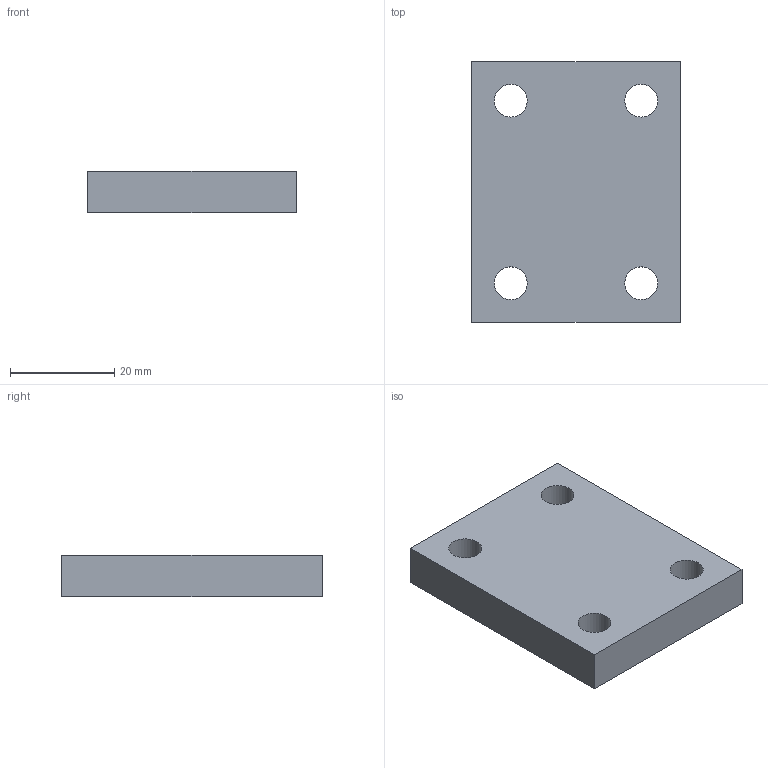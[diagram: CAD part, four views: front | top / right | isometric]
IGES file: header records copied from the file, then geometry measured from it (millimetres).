
Global section: file name: No Iges File Name specified; native system: AutoDesk Inventor R6.1; preprocessor: AutoDesk Inventor Iges Exporter R6.1; author: No Author specified; organization: No Organization specified; date: 20050929.150202; units: millimetre
Bounding box: 40 x 50 x 8 mm (x, y, z)
Surface area: 5823.8 mm2 (no closed solid volume)
Topology: 0 solids, 0 shells, 10 faces, 44 edges, 40 vertices
Faces by surface type: plane 6, bspline 4
